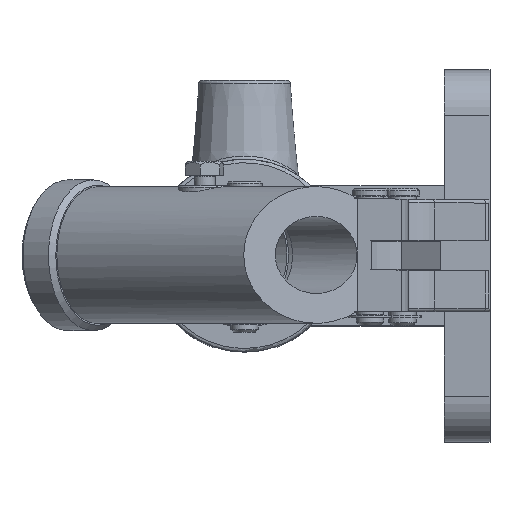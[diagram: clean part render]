
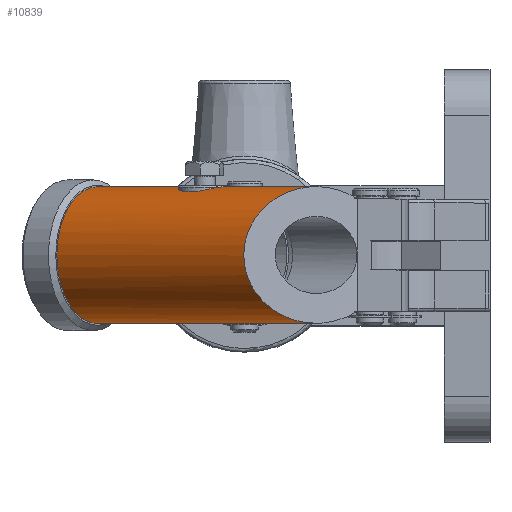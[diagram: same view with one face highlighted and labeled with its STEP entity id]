
A CAD part, top view. The second image highlights one B-rep face of the part: STEP entity #10839.
In plain terms, the highlighted cylindrical face has radius 19.5 mm (diameter 39 mm), a partial arc.
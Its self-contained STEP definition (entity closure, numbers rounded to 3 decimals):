
#23=ELLIPSE('',#11460,20.751,19.5);
#24=ELLIPSE('',#11471,20.751,19.5);
#25=ELLIPSE('',#11479,20.751,19.5);
#26=ELLIPSE('',#11481,22.517,19.5);
#27=ELLIPSE('',#11482,20.751,19.5);
#111=B_SPLINE_CURVE_WITH_KNOTS('',3,(#16270,#16271,#16272,#16273,#16274,
#16275),.UNSPECIFIED.,.F.,.F.,(4,1,1,4),(0.039,0.043,
0.045,0.047),.UNSPECIFIED.);
#112=B_SPLINE_CURVE_WITH_KNOTS('',3,(#16277,#16278,#16279,#16280,#16281),
 .UNSPECIFIED.,.F.,.F.,(4,1,4),(0.032,0.036,0.039),
 .UNSPECIFIED.);
#113=B_SPLINE_CURVE_WITH_KNOTS('',3,(#16283,#16284,#16285,#16286,#16287,
#16288,#16289),.UNSPECIFIED.,.F.,.F.,(4,1,1,1,4),(0.015,0.019,
0.024,0.028,0.032),.UNSPECIFIED.);
#114=B_SPLINE_CURVE_WITH_KNOTS('',3,(#16291,#16292,#16293,#16294,#16295),
 .UNSPECIFIED.,.F.,.F.,(4,1,4),(0.009,0.012,0.015),
 .UNSPECIFIED.);
#115=B_SPLINE_CURVE_WITH_KNOTS('',3,(#16297,#16298,#16299,#16300,#16301),
 .UNSPECIFIED.,.F.,.F.,(4,1,4),(0.,0.004,0.009),
 .UNSPECIFIED.);
#336=LINE('',#16194,#819);
#337=LINE('',#16196,#820);
#349=LINE('',#16230,#832);
#361=LINE('',#16263,#844);
#362=LINE('',#16267,#845);
#363=LINE('',#16302,#846);
#364=LINE('',#16306,#847);
#819=VECTOR('',#12699,1000.);
#820=VECTOR('',#12700,1000.);
#832=VECTOR('',#12736,1000.);
#844=VECTOR('',#12770,1000.);
#845=VECTOR('',#12773,1000.);
#846=VECTOR('',#12776,1000.);
#847=VECTOR('',#12779,1000.);
#1875=ORIENTED_EDGE('',*,*,#3921,.F.);
#1876=ORIENTED_EDGE('',*,*,#3935,.T.);
#1877=ORIENTED_EDGE('',*,*,#3936,.T.);
#1878=ORIENTED_EDGE('',*,*,#3937,.T.);
#1879=ORIENTED_EDGE('',*,*,#3938,.F.);
#1880=ORIENTED_EDGE('',*,*,#3939,.T.);
#1881=ORIENTED_EDGE('',*,*,#3903,.F.);
#1882=ORIENTED_EDGE('',*,*,#3940,.F.);
#1883=ORIENTED_EDGE('',*,*,#3941,.F.);
#1884=ORIENTED_EDGE('',*,*,#3942,.F.);
#1885=ORIENTED_EDGE('',*,*,#3943,.F.);
#1886=ORIENTED_EDGE('',*,*,#3944,.F.);
#1887=ORIENTED_EDGE('',*,*,#3902,.F.);
#1888=ORIENTED_EDGE('',*,*,#3910,.F.);
#1889=ORIENTED_EDGE('',*,*,#3945,.T.);
#1890=ORIENTED_EDGE('',*,*,#3946,.T.);
#1891=ORIENTED_EDGE('',*,*,#3947,.T.);
#1892=ORIENTED_EDGE('',*,*,#3923,.F.);
#3902=EDGE_CURVE('',#4979,#4980,#336,.F.);
#3903=EDGE_CURVE('',#4980,#4981,#337,.F.);
#3910=EDGE_CURVE('',#4984,#4979,#23,.T.);
#3921=EDGE_CURVE('',#4990,#4991,#349,.T.);
#3923=EDGE_CURVE('',#4991,#4992,#24,.T.);
#3935=EDGE_CURVE('',#4990,#5000,#25,.T.);
#3936=EDGE_CURVE('',#5000,#5001,#361,.F.);
#3937=EDGE_CURVE('',#5001,#5002,#26,.T.);
#3938=EDGE_CURVE('',#5003,#5002,#362,.F.);
#3939=EDGE_CURVE('',#5003,#4981,#27,.T.);
#3940=EDGE_CURVE('',#5004,#4980,#111,.T.);
#3941=EDGE_CURVE('',#5005,#5004,#112,.T.);
#3942=EDGE_CURVE('',#5006,#5005,#113,.T.);
#3943=EDGE_CURVE('',#5007,#5006,#114,.T.);
#3944=EDGE_CURVE('',#4980,#5007,#115,.T.);
#3945=EDGE_CURVE('',#4984,#5008,#363,.T.);
#3946=EDGE_CURVE('',#5008,#5009,#5724,.T.);
#3947=EDGE_CURVE('',#5009,#4992,#364,.F.);
#4979=VERTEX_POINT('',#16193);
#4980=VERTEX_POINT('',#16195);
#4981=VERTEX_POINT('',#16197);
#4984=VERTEX_POINT('',#16207);
#4990=VERTEX_POINT('',#16229);
#4991=VERTEX_POINT('',#16231);
#4992=VERTEX_POINT('',#16235);
#5000=VERTEX_POINT('',#16260);
#5001=VERTEX_POINT('',#16264);
#5002=VERTEX_POINT('',#16266);
#5003=VERTEX_POINT('',#16268);
#5004=VERTEX_POINT('',#16276);
#5005=VERTEX_POINT('',#16282);
#5006=VERTEX_POINT('',#16290);
#5007=VERTEX_POINT('',#16296);
#5008=VERTEX_POINT('',#16303);
#5009=VERTEX_POINT('',#16305);
#5724=CIRCLE('',#11483,19.5);
#6274=EDGE_LOOP('',(#1875,#1876,#1877,#1878,#1879,#1880,#1881,#1882,#1883,
#1884,#1885,#1886,#1887,#1888,#1889,#1890,#1891,#1892));
#7053=FACE_BOUND('',#6274,.T.);
#7712=CYLINDRICAL_SURFACE('',#11480,19.5);
#10839=ADVANCED_FACE('',(#7053),#7712,.T.);
#11460=AXIS2_PLACEMENT_3D('',#16208,#12710,#12711);
#11471=AXIS2_PLACEMENT_3D('',#16234,#12740,#12741);
#11479=AXIS2_PLACEMENT_3D('',#16261,#12766,#12767);
#11480=AXIS2_PLACEMENT_3D('',#16262,#12768,#12769);
#11481=AXIS2_PLACEMENT_3D('',#16265,#12771,#12772);
#11482=AXIS2_PLACEMENT_3D('',#16269,#12774,#12775);
#11483=AXIS2_PLACEMENT_3D('',#16304,#12777,#12778);
#12699=DIRECTION('',(-0.804,0.,-0.595));
#12700=DIRECTION('',(-0.804,0.,-0.595));
#12710=DIRECTION('',(0.552,0.,0.834));
#12711=DIRECTION('',(-0.834,0.,0.552));
#12736=DIRECTION('',(-0.804,0.,-0.595));
#12740=DIRECTION('',(0.552,0.,0.834));
#12741=DIRECTION('',(-0.834,0.,0.552));
#12766=DIRECTION('',(0.959,0.,0.284));
#12767=DIRECTION('',(0.284,0.,-0.959));
#12768=DIRECTION('',(-0.804,0.,-0.595));
#12769=DIRECTION('',(0.595,0.,-0.804));
#12770=DIRECTION('',(-0.804,0.,-0.595));
#12771=DIRECTION('',(-0.399,0.,-0.917));
#12772=DIRECTION('',(-0.917,0.,0.399));
#12773=DIRECTION('',(-0.804,0.,-0.595));
#12774=DIRECTION('',(0.959,0.,0.284));
#12775=DIRECTION('',(0.284,0.,-0.959));
#12776=DIRECTION('',(-0.804,0.,-0.595));
#12777=DIRECTION('',(0.804,0.,0.595));
#12778=DIRECTION('',(-0.595,0.,0.804));
#12779=DIRECTION('',(-0.804,0.,-0.595));
#16193=CARTESIAN_POINT('',(-36.577,18.,187.319));
#16194=CARTESIAN_POINT('',(30.052,18.,236.601));
#16195=CARTESIAN_POINT('',(-6.931,18.,209.247));
#16196=CARTESIAN_POINT('',(30.052,18.,236.601));
#16197=CARTESIAN_POINT('',(4.631,18.,217.798));
#16207=CARTESIAN_POINT('',(-27.261,7.5,181.15));
#16208=CARTESIAN_POINT('',(-43.232,0.,191.726));
#16229=CARTESIAN_POINT('',(4.631,-18.,217.798));
#16230=CARTESIAN_POINT('',(30.052,-18.,236.601));
#16231=CARTESIAN_POINT('',(-36.577,-18.,187.319));
#16234=CARTESIAN_POINT('',(-43.232,0.,191.726));
#16235=CARTESIAN_POINT('',(-27.261,-7.5,181.15));
#16260=CARTESIAN_POINT('',(5.732,-16.,214.077));
#16261=CARTESIAN_POINT('',(2.365,0.,225.451));
#16262=CARTESIAN_POINT('',(25.592,0.,242.631));
#16263=CARTESIAN_POINT('',(32.22,-16.,233.669));
#16264=CARTESIAN_POINT('',(32.22,-16.,233.669));
#16265=CARTESIAN_POINT('',(20.418,0.,238.804));
#16266=CARTESIAN_POINT('',(32.22,16.,233.669));
#16267=CARTESIAN_POINT('',(32.22,16.,233.669));
#16268=CARTESIAN_POINT('',(5.732,16.,214.077));
#16269=CARTESIAN_POINT('',(2.365,0.,225.451));
#16270=CARTESIAN_POINT('',(-4.054,19.25,216.832));
#16271=CARTESIAN_POINT('',(-3.758,19.04,215.435));
#16272=CARTESIAN_POINT('',(-3.926,18.556,213.231));
#16273=CARTESIAN_POINT('',(-5.325,18.089,210.695));
#16274=CARTESIAN_POINT('',(-6.344,18.,209.681));
#16275=CARTESIAN_POINT('',(-6.931,18.,209.247));
#16276=CARTESIAN_POINT('',(-4.054,19.25,216.832));
#16277=CARTESIAN_POINT('',(-7.756,19.25,221.837));
#16278=CARTESIAN_POINT('',(-6.82,19.407,221.318));
#16279=CARTESIAN_POINT('',(-5.175,19.593,219.879));
#16280=CARTESIAN_POINT('',(-4.274,19.406,217.87));
#16281=CARTESIAN_POINT('',(-4.054,19.25,216.832));
#16282=CARTESIAN_POINT('',(-7.756,19.25,221.837));
#16283=CARTESIAN_POINT('',(-18.728,19.25,213.721));
#16284=CARTESIAN_POINT('',(-19.026,19.039,215.127));
#16285=CARTESIAN_POINT('',(-18.805,18.392,218.04));
#16286=CARTESIAN_POINT('',(-16.115,17.804,221.651));
#16287=CARTESIAN_POINT('',(-11.864,18.392,223.177));
#16288=CARTESIAN_POINT('',(-9.015,19.038,222.534));
#16289=CARTESIAN_POINT('',(-7.756,19.25,221.837));
#16290=CARTESIAN_POINT('',(-18.728,19.25,213.721));
#16291=CARTESIAN_POINT('',(-15.026,19.25,208.716));
#16292=CARTESIAN_POINT('',(-15.95,19.405,209.228));
#16293=CARTESIAN_POINT('',(-17.607,19.594,210.673));
#16294=CARTESIAN_POINT('',(-18.507,19.407,212.677));
#16295=CARTESIAN_POINT('',(-18.728,19.25,213.721));
#16296=CARTESIAN_POINT('',(-15.026,19.25,208.716));
#16297=CARTESIAN_POINT('',(-6.931,18.,209.247));
#16298=CARTESIAN_POINT('',(-8.106,18.,208.378));
#16299=CARTESIAN_POINT('',(-10.899,18.39,207.38));
#16300=CARTESIAN_POINT('',(-13.783,19.041,208.027));
#16301=CARTESIAN_POINT('',(-15.026,19.25,208.716));
#16302=CARTESIAN_POINT('',(36.296,7.5,228.159));
#16303=CARTESIAN_POINT('',(-31.239,7.5,178.208));
#16304=CARTESIAN_POINT('',(-41.942,0.,192.68));
#16305=CARTESIAN_POINT('',(-31.239,-7.5,178.208));
#16306=CARTESIAN_POINT('',(36.296,-7.5,228.159));
